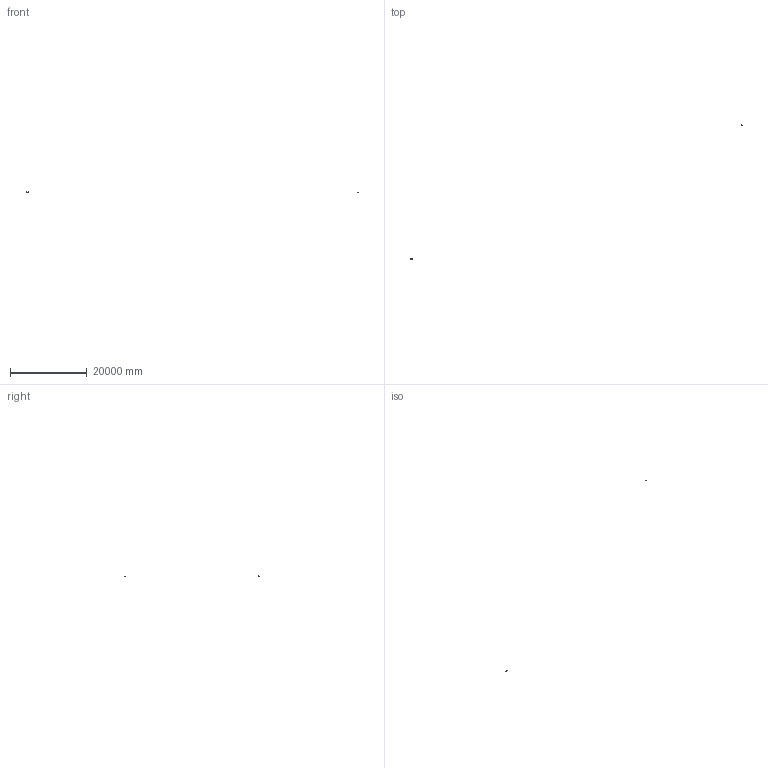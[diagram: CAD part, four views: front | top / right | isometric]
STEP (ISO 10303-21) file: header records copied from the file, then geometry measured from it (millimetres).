
FILE_DESCRIPTION(('Creo Elements/Direct Modeling STEP Export'),'2;1');
FILE_NAME('3D-Model_MLC SC W2_560_72_yzz HE G3__(WU-M-739)_TC.stp','2025-05-07T14:14:38',(''),(''),'PTC Creo Elements/Direct Modeling STEP processor for AP214 (Solid Model)','PTC Creo Elements/Direct Modeling 19.0E 27-Jun-2016 (C) Parametric Technology GmbH','');
FILE_SCHEMA(('AUTOMOTIVE_DESIGN { 1 0 10303 214 1 1 1 1 }'));
Length unit declared in the file: millimetre
Products named in the file (208): p1.1; p1; PLATE.58; PLATE.59; PLATE.61; PLATE.63; PLATE.64; PLATE.56; PLATE.60; PLATE.62; PLATE.55; PLATE.54; PLATE.57; PLATE.124; PLATE.121; PLATE.127; PLATE.123; PLATE.126; PLATE.125; PLATE.122; PLATE.88; PLATE.89; PLATE.92; PLATE.95; PLATE.87; PLATE.91; PLATE.96; PLATE.97; PLATE.93; PLATE.94; PLATE.90; PLATE.40; PLATE.41; PLATE.16; PLATE.8; PLATE.34; PLATE.2; PLATE.6; PLATE.13; PLATE.1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
Assembly tree (202 placements, depth 2):
  p1.1
  p1
  PRINT
    PLATE.84
    PLATE.80
    PLATE.83
    PLATE.76
    PLATE.85
    PLATE.78
    PLATE.82
    PLATE.86
    PLATE.79
    PLATE.77
    PLATE.81
    PLATE.110
    PLATE.117
    PLATE.115
    PLATE.119
    PLATE.118
    PLATE.109
    PLATE.112
    PLATE.100
    PLATE.114
    PLATE.106
    PLATE.105
    PLATE.108
    PLATE.107
    PLATE.98
    PLATE.99
    PLATE.111
    PLATE.113
    PLATE.101
    PLATE.120
    PLATE.116
    PLATE.104
    PLATE.103
    PLATE.102
    PLATE.71
    PLATE.66
    PLATE.65
    PLATE.70
    PLATE.75
    PLATE.74
    PLATE.69
    PLATE.73
    PLATE.68
    PLATE.67
    PLATE.72
    PLATE.51
    PLATE.48
    PLATE.47
    PLATE.52
    PLATE.49
    PLATE.50
    PLATE.46
    PLATE.53
    PLATE.45
    PLATE.44
    PLATE.43
    PLATE.22
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Bounding box: 86437.48 x 34887.99 x 6.1 mm (x, y, z)
Volume: 18113.9 mm3; surface area: 28070.4 mm2
Topology: 203 solids, 203 shells, 9532 faces, 25924 edges, 17016 vertices
Faces by surface type: plane 7531, cylinder 1997, sphere 4
Entity records: 131231 total; most frequent: CARTESIAN_POINT 18245, ORIENTED_EDGE 17618, DIRECTION 17340, EDGE_CURVE 8809, VECTOR 7048, LINE 7048, VERTEX_POINT 5869, AXIS2_PLACEMENT_3D 5146
